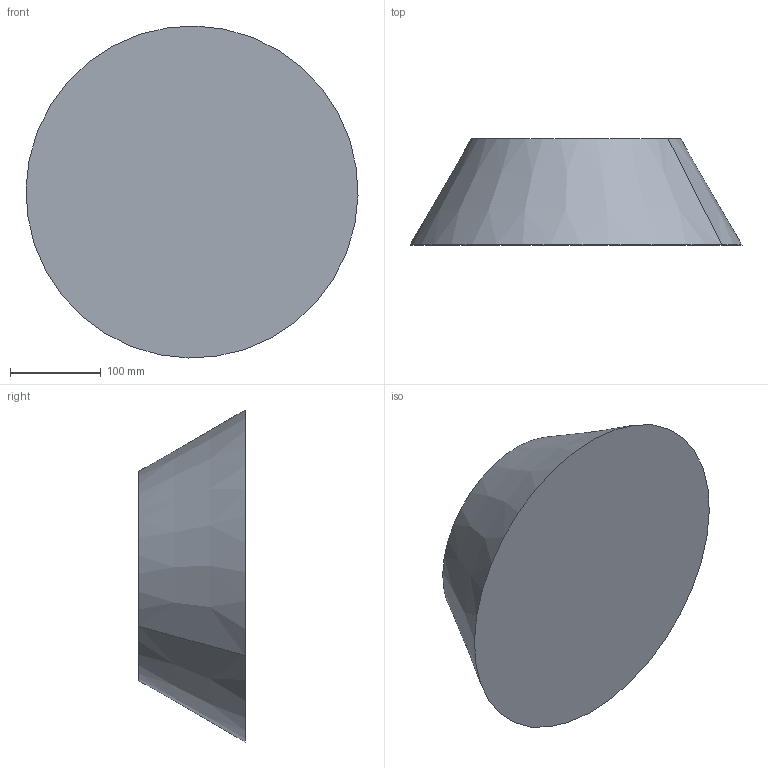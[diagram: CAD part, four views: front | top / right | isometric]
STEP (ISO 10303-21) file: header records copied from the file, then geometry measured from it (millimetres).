
FILE_DESCRIPTION(('CATIA V5 STEP Exchange'),'2;1');
FILE_NAME('C:\_Andres\UNIVERSIDAD\IQS\ASIGNATURAS\DAO\EXF\EXF-16172c\2inicio\Lopez_Triquell_Ej09_v17.stp','2017-03-05T22:13:12+00:00',('none'),('none'),'CATIA Version 5-6 Release 2014 SP1 HF18','CATIA V5 STEP AP203','none');
FILE_SCHEMA(('CONFIG_CONTROL_DESIGN'));
Length unit declared in the file: millimetre
Products named in the file (1): Lopez_Triquell_Ej09_v17
Bounding box: 365.9 x 117 x 365.9 mm (x, y, z)
Volume: 8316918.4 mm3; surface area: 275952.1 mm2
Topology: 1 solids, 2 shells, 8 faces, 12 edges, 8 vertices
Faces by surface type: plane 4, cone 2, cylinder 2
Entity records: 205 total; most frequent: CARTESIAN_POINT 27, DIRECTION 24, ORIENTED_EDGE 24, AXIS2_PLACEMENT_3D 15, EDGE_CURVE 12, ADVANCED_FACE 8, CIRCLE 8, EDGE_LOOP 8
